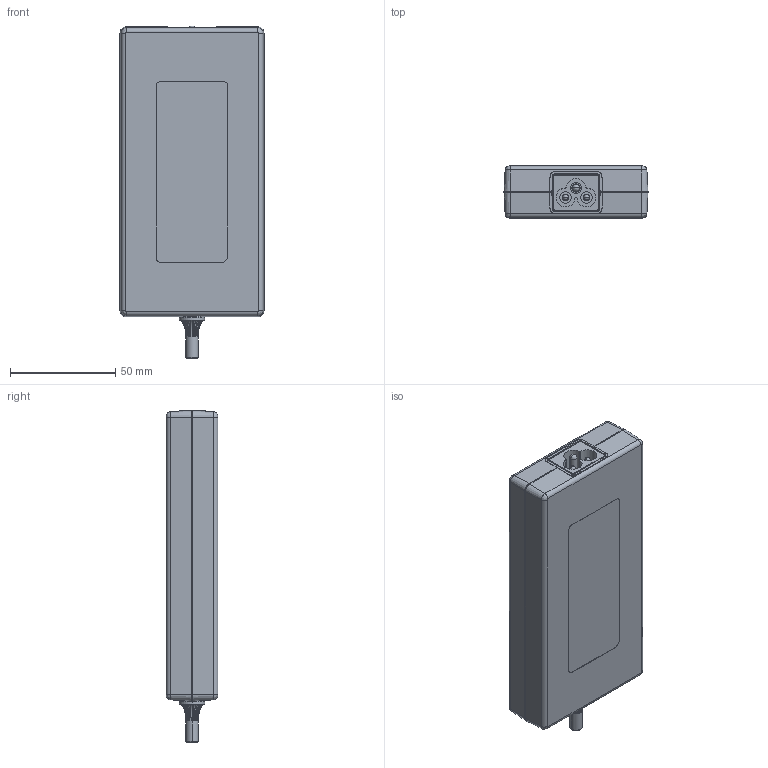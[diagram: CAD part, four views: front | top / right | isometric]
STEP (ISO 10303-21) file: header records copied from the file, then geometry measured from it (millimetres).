
FILE_DESCRIPTION((''),'2;1');
FILE_NAME('ADT-120A19AA_M-A_3D_ASM','2020-10-27T',('CAREY.WENG'),(''),'CREO PARAMETRIC BY PTC INC, 2014190','CREO PARAMETRIC BY PTC INC, 2014190','');
FILE_SCHEMA(('CONFIG_CONTROL_DESIGN'));
Length unit declared in the file: millimetre
Products named in the file (7): ADP-135W_COVER_072318_53_1; ADP-135W_CHASSIS-072318_61_1; C6_SOCKET_2_1; SR_135KB_2_1; 135W-ASSY_ASM_152_ASM_1_ASM; 135W-ASSY_ASM_ASM_1_ASM; ADT-120A19AA_M-A_3D_ASM
Assembly tree (6 placements, depth 4):
  ADT-120A19AA_M-A_3D_ASM
    135W-ASSY_ASM_ASM_1_ASM
      135W-ASSY_ASM_152_ASM_1_ASM
        ADP-135W_COVER_072318_53_1
        ADP-135W_CHASSIS-072318_61_1
        C6_SOCKET_2_1
        SR_135KB_2_1
Bounding box: 68.5 x 24.5 x 157.89 mm (x, y, z)
Volume: 30935.1 mm3; surface area: 62260.8 mm2
Topology: 3 solids, 4 shells, 987 faces, 2469 edges, 1522 vertices
Faces by surface type: plane 545, cylinder 199, cone 155, bspline 36, torus 34, sphere 18
Entity records: 31086 total; most frequent: CARTESIAN_POINT 7673, ORIENTED_EDGE 4896, DIRECTION 4689, EDGE_CURVE 2451, VECTOR 1715, LINE 1715, VERTEX_POINT 1522, AXIS2_PLACEMENT_3D 1487
